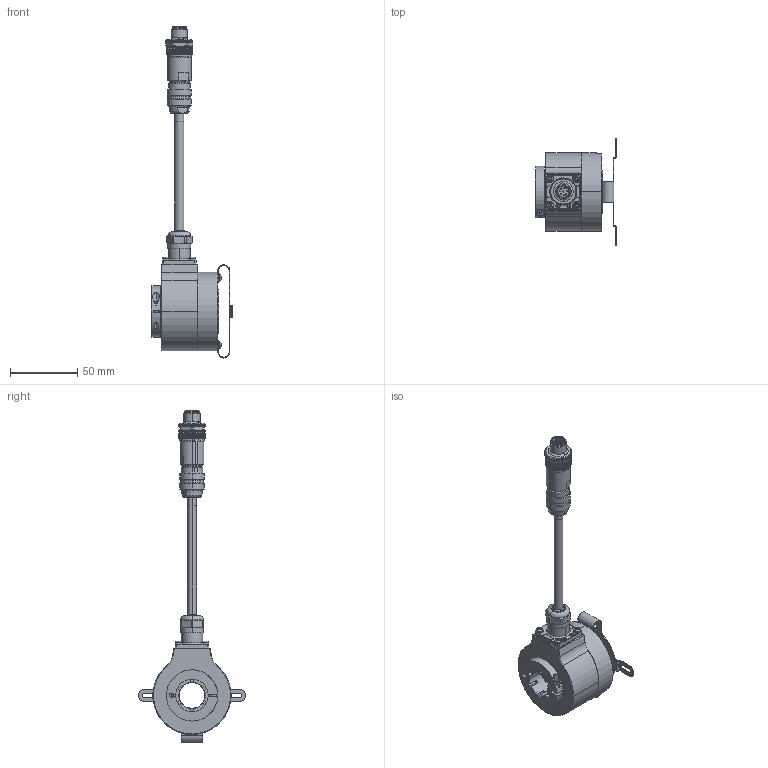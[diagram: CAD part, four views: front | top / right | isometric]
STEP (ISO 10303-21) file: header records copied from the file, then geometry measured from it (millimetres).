
FILE_DESCRIPTION (( 'STEP AP203' ), '1' );
FILE_NAME ('K58I.OXX.XXXXX.XC1655A.XXR12.XXXX.step', '2025-12-03T07:41:48', ( '' ), ( '' ), 'SwSTEP 2.0', 'SolidWorks 2021', '' );
FILE_SCHEMA (( 'CONFIG_CONTROL_DESIGN' ));
Length unit declared in the file: millimetre
Products named in the file (1): K58I.OXX.XXXXX.XC1655A.XXR12.XXXX
Bounding box: 60.2 x 79.4 x 245.99 mm (x, y, z)
Volume: 134631.5 mm3; surface area: 53686.3 mm2
Topology: 18 solids, 18 shells, 1652 faces, 4082 edges, 2488 vertices
Faces by surface type: cylinder 608, plane 598, cone 317, bspline 62, torus 35, sphere 32
Entity records: 52335 total; most frequent: CARTESIAN_POINT 14329, ORIENTED_EDGE 8076, DIRECTION 7844, EDGE_CURVE 4038, AXIS2_PLACEMENT_3D 3111, VERTEX_POINT 2472, EDGE_LOOP 1738, ADVANCED_FACE 1652
